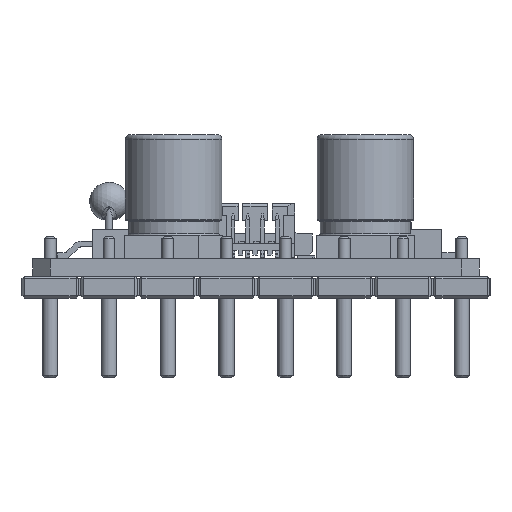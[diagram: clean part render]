
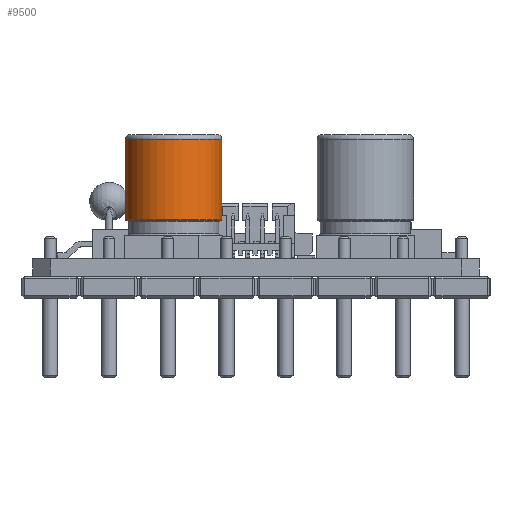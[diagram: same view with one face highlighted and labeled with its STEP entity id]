
A CAD part, left-side view. The second image highlights one B-rep face of the part: STEP entity #9500.
In plain terms, the highlighted cylindrical face has radius 4.1 mm (diameter 8.2 mm), a full revolution.
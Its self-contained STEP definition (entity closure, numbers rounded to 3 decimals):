
#7674=CYLINDRICAL_SURFACE('',#27710,4.1);
#9500=ADVANCED_FACE('',(#11301,#11302),#7674,.T.);
#10954=CIRCLE('',#27708,4.1);
#10955=CIRCLE('',#27709,4.1);
#11301=FACE_BOUND('',#12388,.T.);
#11302=FACE_BOUND('',#12389,.T.);
#12388=EDGE_LOOP('',(#16480));
#12389=EDGE_LOOP('',(#16481));
#16480=ORIENTED_EDGE('',*,*,#21352,.T.);
#16481=ORIENTED_EDGE('',*,*,#21353,.T.);
#19020=VERTEX_POINT('',#37018);
#19021=VERTEX_POINT('',#37020);
#21352=EDGE_CURVE('',#19020,#19020,#10954,.T.);
#21353=EDGE_CURVE('',#19021,#19021,#10955,.T.);
#27708=AXIS2_PLACEMENT_3D('',#37017,#31851,#31852);
#27709=AXIS2_PLACEMENT_3D('',#37019,#31853,#31854);
#27710=AXIS2_PLACEMENT_3D('',#37021,#31855,#31856);
#31851=DIRECTION('',(0.,0.,-1.));
#31852=DIRECTION('',(-1.,0.,0.));
#31853=DIRECTION('',(0.,0.,1.));
#31854=DIRECTION('',(1.,0.,0.));
#31855=DIRECTION('',(0.,0.,1.));
#31856=DIRECTION('',(-1.,0.,0.));
#37017=CARTESIAN_POINT('',(-18.1,7.,10.15));
#37018=CARTESIAN_POINT('',(-22.2,7.,10.15));
#37019=CARTESIAN_POINT('',(-18.1,7.,3.35));
#37020=CARTESIAN_POINT('',(-14.,7.,3.35));
#37021=CARTESIAN_POINT('',(-18.1,7.,3.25));
